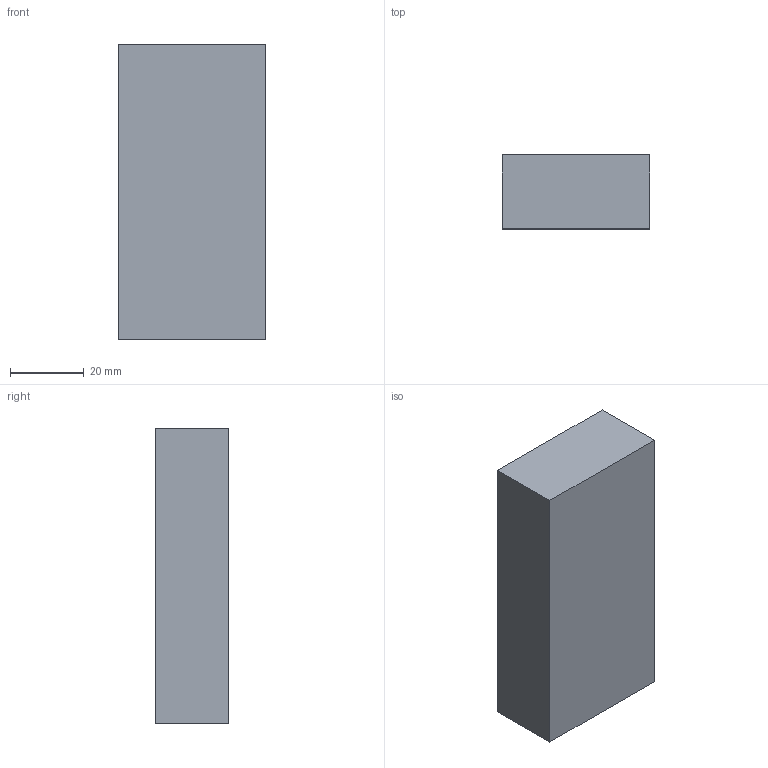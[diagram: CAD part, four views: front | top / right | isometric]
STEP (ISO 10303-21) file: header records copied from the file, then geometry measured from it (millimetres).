
FILE_DESCRIPTION(/* description */ (''),/* implementation_level */ '2;1');
FILE_NAME(/* name */ 'FR5078~1',/* time_stamp */ '2014-02-14T19:35:37+01:00',/* author */ (''),/* organization */ (''),/* preprocessor_version */ 'ST-DEVELOPER v14',/* originating_system */ '',/* authorisation */ '');
FILE_SCHEMA (('AUTOMOTIVE_DESIGN'));
Length unit declared in the file: millimetre
Products named in the file (1): Document
Bounding box: 40 x 20 x 80 mm (x, y, z)
Volume: 64000 mm3; surface area: 11200 mm2
Topology: 1 solids, 1 shells, 6 faces, 12 edges, 8 vertices
Faces by surface type: plane 6
Entity records: 298 total; most frequent: CARTESIAN_POINT 88, B_SPLINE_CURVE_WITH_KNOTS 36, ORIENTED_EDGE 24, PCURVE 24, DEFINITIONAL_REPRESENTATION 24, SURFACE_CURVE 12, EDGE_CURVE 12, DIRECTION 10
